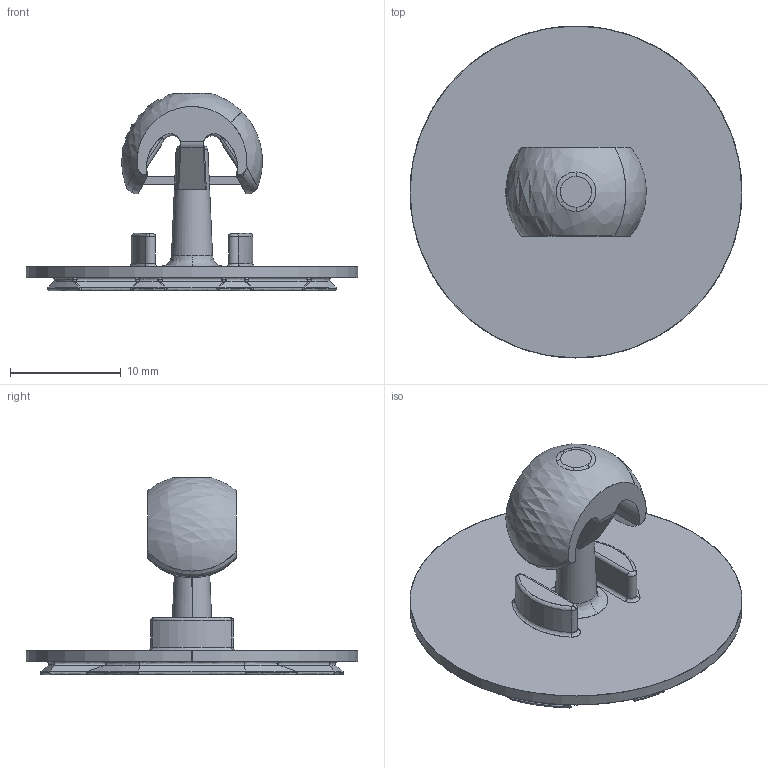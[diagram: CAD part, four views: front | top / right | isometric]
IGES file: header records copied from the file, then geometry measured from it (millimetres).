
Start section: SolidWorks IGES file using analytic representation for surfaces
Global section: file name: D:\Blender\Clients\FAS - Fastmount\FAS000 - General\Customer files\Clip Geometry\PC - Standard Range\IGES\PC-SM2.IGS; native system: SolidWorks 2018; preprocessor: SolidWorks 2018; author: Evan; date: 190204.094435; units: millimetre
Bounding box: 30 x 30 x 17.87 mm (x, y, z)
Surface area: 2521.8 mm2 (no closed solid volume)
Topology: 0 solids, 0 shells, 268 faces, 2175 edges, 2109 vertices
Faces by surface type: bspline 175, revolution 93
